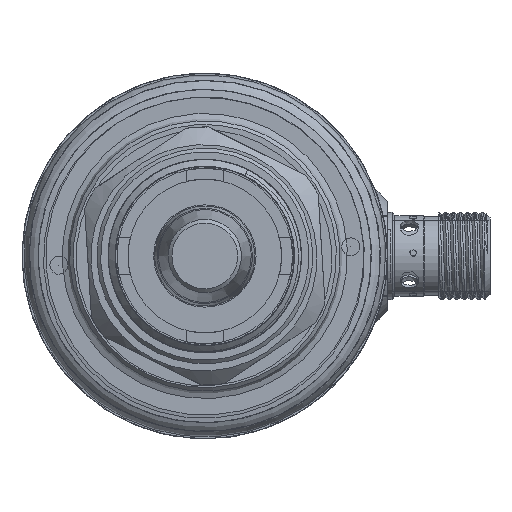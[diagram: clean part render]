
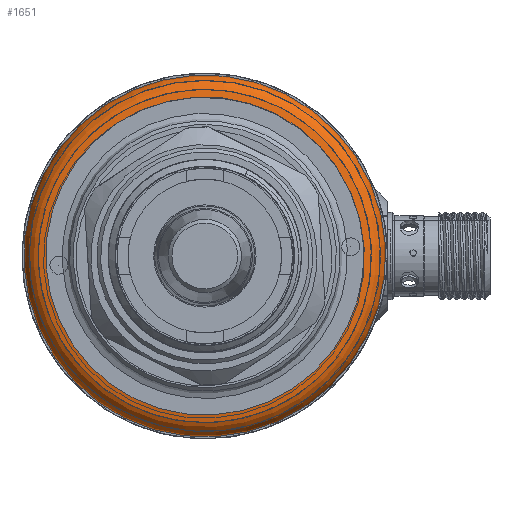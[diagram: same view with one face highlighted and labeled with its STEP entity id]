
A CAD part, front view. The second image highlights one B-rep face of the part: STEP entity #1651.
In plain terms, the highlighted toroidal (fillet/blend) face has major radius 21.75 mm and minor radius 3 mm.
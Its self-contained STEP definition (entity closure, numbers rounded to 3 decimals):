
#305 = VERTEX_POINT ( 'NONE', #6942 ) ;
#1022 = AXIS2_PLACEMENT_3D ( 'NONE', #4034, #4260, #3051 ) ;
#1651 = ADVANCED_FACE ( 'NONE', ( #11240, #14343 ), #4847, .T. ) ;
#2570 = EDGE_CURVE ( 'NONE', #6638, #6638, #3539, .T. ) ;
#3051 = DIRECTION ( 'NONE',  ( 0., 0., -1. ) ) ;
#3185 = CARTESIAN_POINT ( 'NONE',  ( 41., 0., -22.025 ) ) ;
#3539 = CIRCLE ( 'NONE', #7599, 21.75 ) ;
#4034 = CARTESIAN_POINT ( 'NONE',  ( 44., 0., -0.275 ) ) ;
#4081 = AXIS2_PLACEMENT_3D ( 'NONE', #12612, #10563, #9216 ) ;
#4260 = DIRECTION ( 'NONE',  ( 1., 0., 0. ) ) ;
#4738 = DIRECTION ( 'NONE',  ( 0., 0., -1. ) ) ;
#4847 = TOROIDAL_SURFACE ( 'NONE', #1022, 21.75, 3. ) ;
#4885 = ORIENTED_EDGE ( 'NONE', *, *, #2570, .F. ) ;
#6436 = DIRECTION ( 'NONE',  ( -1., 0., 0. ) ) ;
#6638 = VERTEX_POINT ( 'NONE', #3185 ) ;
#6942 = CARTESIAN_POINT ( 'NONE',  ( 44., 0., -25.025 ) ) ;
#7181 = CIRCLE ( 'NONE', #4081, 24.75 ) ;
#7431 = EDGE_CURVE ( 'NONE', #305, #305, #7181, .T. ) ;
#7599 = AXIS2_PLACEMENT_3D ( 'NONE', #12084, #6436, #4738 ) ;
#9216 = DIRECTION ( 'NONE',  ( 0., 0., -1. ) ) ;
#9615 = EDGE_LOOP ( 'NONE', ( #11797 ) ) ;
#10563 = DIRECTION ( 'NONE',  ( 1., 0., 0. ) ) ;
#11240 = FACE_OUTER_BOUND ( 'NONE', #9615, .T. ) ;
#11797 = ORIENTED_EDGE ( 'NONE', *, *, #7431, .F. ) ;
#12084 = CARTESIAN_POINT ( 'NONE',  ( 41., 0., -0.275 ) ) ;
#12612 = CARTESIAN_POINT ( 'NONE',  ( 44., 0., -0.275 ) ) ;
#13125 = EDGE_LOOP ( 'NONE', ( #4885 ) ) ;
#14343 = FACE_OUTER_BOUND ( 'NONE', #13125, .T. ) ;
